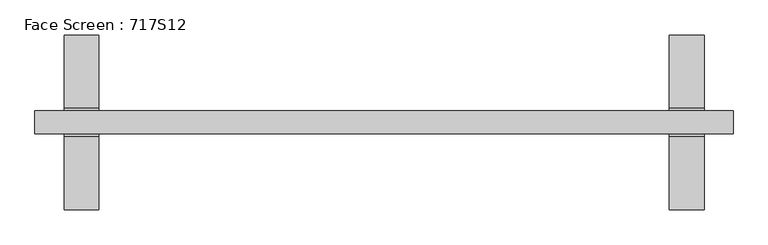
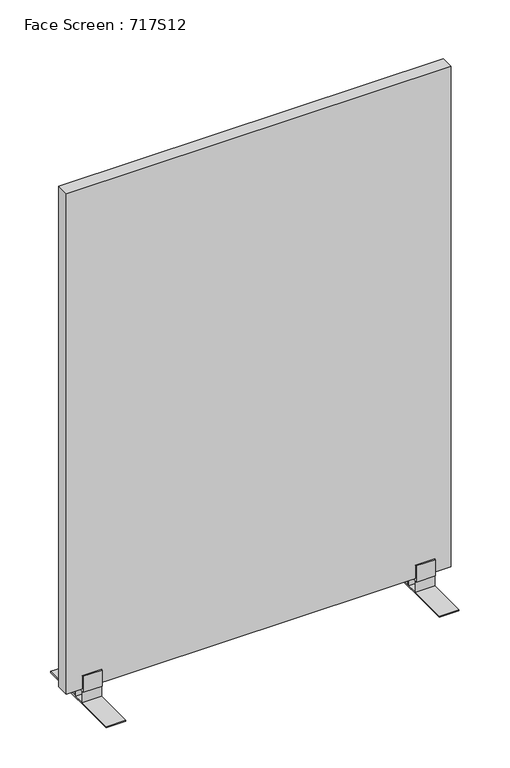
"""IFC4 building model written with IfcOpenShell, lengths in millimetres: furniture geometry, Face Screen : 717S12."""

from ifc_helpers import new_model, si_unit, frame, origin, place, context, project, spatial, polyline, outline, extrude, source, transform, mapped, element, save


def face_screen_717s12_934e0f32(model_context):
    return source(origin(), model_context, "Body", "SweptSolid", [
        extrude(outline(polyline([(-20.0, 4.0), (-20.0, 40.0), (-24.0, 40.0), (-24.0000047, 93.0166638), (-20.0, 93.0166638), (-20.0, 50.0955899), (20.0, 50.0955899), (20.0, 93.0166638), (24.0, 93.0166638), (23.9999953, 40.0), (20.0, 40.0), (20.0, 4.0), (149.9935713, 4.0), (149.9935713, 0.0), (-150.0064287, 0.0), (-150.0064287, 4.0), (-20.0, 4.0)]), holes=[polyline([(16.0, 40.0), (-16.0, 40.0), (-16.0, 4.0), (16.0, 4.0), (16.0, 40.0)])]), frame((490.0, 0.0, 0.0), z_axis=(1.0, 0.0, 0.0), x_axis=(0.0, 1.0, 0.0)), (0.0, 0.0, 1.0), 60.0),
        extrude(outline(polyline([(20.0, 4.0), (150.0064287, 4.0), (150.0064287, 0.0), (-149.9935713, 0.0), (-149.9935713, 4.0), (-20.0, 4.0), (-20.0, 40.0), (-23.9999953, 40.0), (-24.0, 93.0166638), (-20.0, 93.0166638), (-20.0, 50.0955899), (20.0, 50.0955899), (20.0, 93.0166638), (24.0000047, 93.0166638), (24.0, 40.0), (20.0, 40.0), (20.0, 4.0)]), holes=[polyline([(-16.0, 40.0), (-16.0, 4.0), (16.0, 4.0), (16.0, 40.0), (-16.0, 40.0)])]), frame((-550.0, 0.0, 0.0), z_axis=(1.0, 0.0, 0.0), x_axis=(0.0, 1.0, 0.0)), (0.0, 0.0, 1.0), 60.0),
        extrude(outline(polyline([(600.0, 20.0), (600.0, -20.0), (-600.0, -20.0), (-600.0, 20.0), (600.0, 20.0)])), frame((0.0, 0.0, 50.0), z_axis=(0.0, 0.0, 1.0), x_axis=(1.0, 0.0, 0.0)), (0.0, 0.0, 1.0), 1650.0),
    ])


if __name__ == "__main__":
    model = new_model("IFC4")
    model_context = context("Model", 3, world=origin())
    ifc_project = project(units=[si_unit("LENGTHUNIT", "METRE", prefix="MILLI")], contexts=[model_context])
    site = spatial("IfcSite", under=ifc_project)
    building = spatial("IfcBuilding", under=site)
    placement = place(None, origin())
    face_screen_717s12_shape = face_screen_717s12_934e0f32(model_context)
    element("IfcFurniture", 1, ObjectType="Face Screen : 717S12", at=placement, inside=building, context=model_context, shape_type="MappedRepresentation", body=[
        mapped(face_screen_717s12_shape, transform((0.0, 0.0, 0.0), x_axis=(1.0, 0.0, 0.0), y_axis=(0.0, 1.0, 0.0), z_axis=(0.0, 0.0, 1.0))),
    ])
    save(model, "model.ifc")
